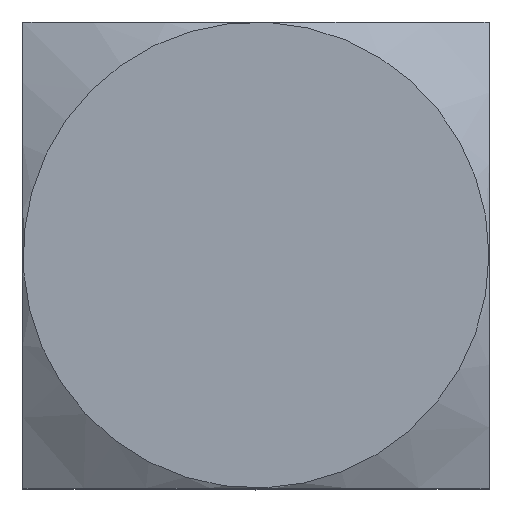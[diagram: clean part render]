
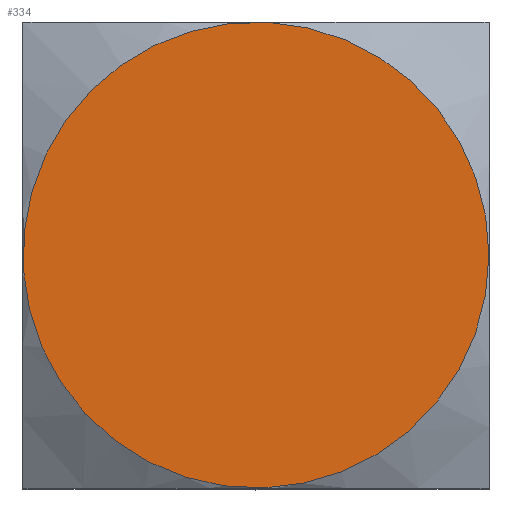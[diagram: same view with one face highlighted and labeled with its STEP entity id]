
A CAD part, top view. The second image highlights one B-rep face of the part: STEP entity #334.
In plain terms, the highlighted planar face has unit normal (0, 0, 1).
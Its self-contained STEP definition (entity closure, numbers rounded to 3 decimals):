
#40=PLANE('',#357);
#53=ORIENTED_EDGE('',*,*,#106,.T.);
#106=EDGE_CURVE('',#134,#134,#153,.T.);
#134=VERTEX_POINT('',#450);
#153=CIRCLE('',#358,9.495);
#165=EDGE_LOOP('',(#53));
#190=FACE_BOUND('',#165,.T.);
#334=ADVANCED_FACE('',(#190),#40,.T.);
#357=AXIS2_PLACEMENT_3D('',#448,#390,#391);
#358=AXIS2_PLACEMENT_3D('',#449,#392,#393);
#390=DIRECTION('',(0.,0.,1.));
#391=DIRECTION('',(1.,0.,0.));
#392=DIRECTION('',(0.,0.,1.));
#393=DIRECTION('',(1.,0.,0.));
#448=CARTESIAN_POINT('',(0.,0.,0.));
#449=CARTESIAN_POINT('',(0.,0.,0.));
#450=CARTESIAN_POINT('',(9.495,0.,0.));
